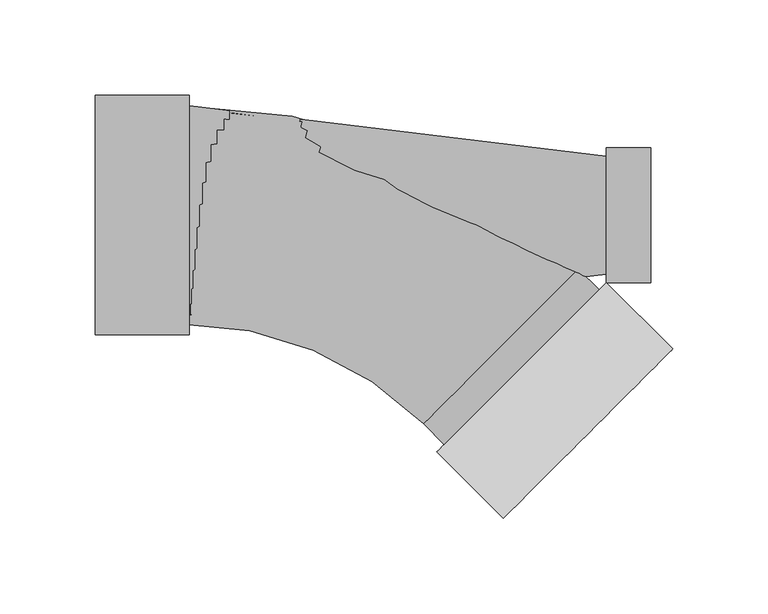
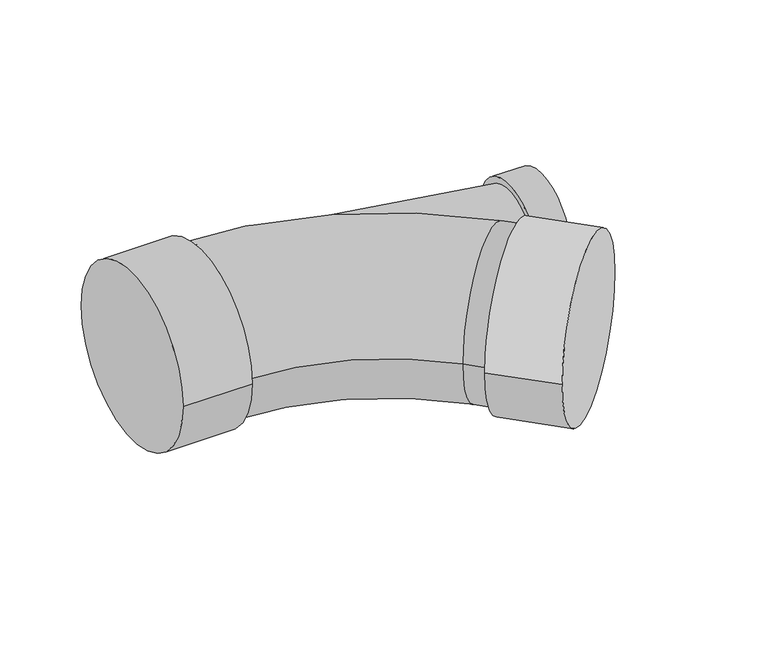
"""IFC4 building model written with IfcOpenShell, lengths in millimetres: pipe fitting geometry, M_Sanitario con te de reducción - PVC - Serie 40 - DWV : Estándar."""

from ifc_helpers import new_model, si_unit, point, frame, origin, place, context, project, spatial, polyline, circle_curve, ellipse_curve, trimmed, source, transform, mapped, element, save
from ifc_brep_helpers import plane_surface, cylinder_surface, revolved_surface, advanced_brep


def pipe_fitting_e120c99a(model_context):
    return source(origin(), model_context, "Body", "AdvancedBrep", [
        advanced_brep(
        [(124.3040007, -35.4191094, 0.0), (124.3040007, 35.4191094, 0.0), (124.3040007, -30.9800625, 0.0), (124.3040007, 30.9800625, 0.0), (147.6323132, -35.4191094, 0.0), (147.6323132, 35.4191094, 0.0), (-94.6584022, 57.3960625, 0.0), (-94.6584022, -57.3960625, 0.0), (-143.8947147, -62.8511094, 0.0), (-143.8947147, 62.8511094, 0.0), (-94.6584022, -62.8511094, 0.0), (-94.6584022, 62.8511094, 0.0)],
        [
            (0, 1, circle_curve(frame((124.3040007, 0.0, 0.0), z_axis=(-1.0, 0.0, 0.0), x_axis=(0.0, 1.0, 0.0)), 35.4191094)),
            (1, 0, circle_curve(frame((124.3040007, 0.0, 0.0), z_axis=(-1.0, 0.0, 0.0), x_axis=(0.0, 1.0, 0.0)), 35.4191094)),
            (2, 3, circle_curve(frame((124.3040007, 0.0, 0.0), z_axis=(1.0, 0.0, 0.0), x_axis=(0.0, -1.0, 0.0)), 30.9800625)),
            (3, 2, circle_curve(frame((124.3040007, 0.0, 0.0), z_axis=(1.0, 0.0, 0.0), x_axis=(0.0, 1.0, 0.0)), 30.9800625)),
            (4, 5, circle_curve(frame((147.6323132, 0.0, 0.0), z_axis=(1.0, 0.0, 0.0), x_axis=(0.0, 1.0, 0.0)), 35.4191094)),
            (5, 4, circle_curve(frame((147.6323132, 0.0, 0.0), z_axis=(1.0, 0.0, 0.0), x_axis=(0.0, 1.0, 0.0)), 35.4191094)),
            (0, 4),
            (5, 1),
            (6, 3),
            (2, 7),
            (7, 6, circle_curve(frame((-94.6584022, 0.0, 0.0), z_axis=(1.0, 0.0, 0.0), x_axis=(0.0, -1.0, 0.0)), 57.3960625)),
            (6, 7, circle_curve(frame((-94.6584022, 0.0, 0.0), z_axis=(1.0, 0.0, 0.0), x_axis=(0.0, 1.0, 0.0)), 57.3960625)),
            (8, 9, circle_curve(frame((-143.8947147, 0.0, 0.0), z_axis=(-1.0, 0.0, 0.0), x_axis=(0.0, 1.0, 0.0)), 62.8511094)),
            (9, 8, circle_curve(frame((-143.8947147, 0.0, 0.0), z_axis=(-1.0, 0.0, 0.0), x_axis=(0.0, 1.0, 0.0)), 62.8511094)),
            (10, 11, circle_curve(frame((-94.6584022, 0.0, 0.0), z_axis=(1.0, 0.0, 0.0), x_axis=(0.0, 1.0, 0.0)), 62.8511094)),
            (11, 10, circle_curve(frame((-94.6584022, 0.0, 0.0), z_axis=(1.0, 0.0, 0.0), x_axis=(0.0, 1.0, 0.0)), 62.8511094)),
            (8, 10),
            (11, 9),
        ],
        [
            plane_surface(frame((124.3040007, 0.0, 0.0), z_axis=(-1.0, 0.0, 0.0), x_axis=(0.0, 0.0, 1.0))),
            plane_surface(frame((147.6323132, 0.0, 0.0), z_axis=(1.0, 0.0, 0.0), x_axis=(0.0, 0.0, 1.0))),
            cylinder_surface(frame((124.3040007, 0.0, 0.0), z_axis=(-1.0, 0.0, 0.0), x_axis=(0.0, 1.0, 0.0)), 35.4191094),
            revolved_surface(polyline([(124.30400070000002, 30.98006250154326, 0.0), (-94.65840220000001, 57.3960625, 0.0)]), (381.0979486, 0.0, 0.0), (-1.0, 0.0, 0.0)),
            plane_surface(frame((-143.8947147, 0.0, 0.0), z_axis=(-1.0, 0.0, 0.0), x_axis=(0.0, 0.0, 1.0))),
            plane_surface(frame((-94.6584022, 0.0, 0.0), z_axis=(1.0, 0.0, 0.0), x_axis=(0.0, 0.0, 1.0))),
            cylinder_surface(frame((-143.8947147, 0.0, 0.0), z_axis=(-1.0, 0.0, 0.0), x_axis=(0.0, 1.0, 0.0)), 62.8511094),
        ],
        [
            (0, [[1, 2], [3, 4]]),
            (1, [[5, 6]]),
            (2, [[-1, 7, -6, 8]]),
            (2, [[-2, -8, -5, -7]]),
            (3, [[9, -3, 10, 11]]),
            (3, [[-9, 12, -10, -4]]),
            (4, [[13, 14]]),
            (5, [[15, 16], [-11, -12]]),
            (6, [[-13, 17, -16, 18]]),
            (6, [[-14, -18, -15, -17]]),
        ],
    ),
        advanced_brep(
        [(159.1193311, -70.2344398, 0.0), (70.2344398, -159.1193311, 0.0), (68.9992366, -68.9992366, 57.3960625), (28.4140916, -109.5843816, 0.0), (39.27641, -120.4467, 0.0), (120.4467, -39.27641, 0.0), (109.5843816, -28.4140916, 0.0), (68.9992366, -68.9992366, -57.3960625), (-97.5796562, -57.3960625, 0.0), (-97.5796562, 57.3960625, 0.0), (124.3040007, -35.4191094, 0.0), (35.4191094, -124.3040007, 0.0)],
        [
            (0, 1, circle_curve(frame((114.6768855, -114.6768855, 0.0), z_axis=(0.7071067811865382, -0.7071067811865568, 0.0), x_axis=(-0.7071067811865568, -0.7071067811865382, 0.0)), 62.8511094)),
            (1, 0, circle_curve(frame((114.6768855, -114.6768855, 0.0), z_axis=(0.7071067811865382, -0.7071067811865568, 0.0), x_axis=(-0.7071067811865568, -0.7071067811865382, 0.0)), 62.8511094)),
            (2, 3, circle_curve(frame((68.9992366, -68.9992366, 0.0), z_axis=(0.7071067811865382, -0.7071067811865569, 0.0), x_axis=(0.7071067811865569, 0.7071067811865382, 0.0)), 57.3960625)),
            (3, 4),
            (4, 5, circle_curve(frame((79.861555, -79.861555, 0.0), z_axis=(-0.7071067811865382, 0.7071067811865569, 0.0), x_axis=(0.7071067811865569, 0.7071067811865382, 0.0)), 57.3960625)),
            (5, 6),
            (6, 2, circle_curve(frame((68.9992366, -68.9992366, 0.0), z_axis=(0.7071067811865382, -0.7071067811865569, 0.0), x_axis=(0.7071067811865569, 0.7071067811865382, 0.0)), 57.3960625)),
            (3, 7, circle_curve(frame((68.9992366, -68.9992366, 0.0), z_axis=(0.7071067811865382, -0.7071067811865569, 0.0), x_axis=(0.7071067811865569, 0.7071067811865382, 0.0)), 57.3960625)),
            (7, 6, circle_curve(frame((68.9992366, -68.9992366, 0.0), z_axis=(0.7071067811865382, -0.7071067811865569, 0.0), x_axis=(0.7071067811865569, 0.7071067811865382, 0.0)), 57.3960625)),
            (5, 4, circle_curve(frame((79.861555, -79.861555, 0.0), z_axis=(-0.7071067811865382, 0.7071067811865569, 0.0), x_axis=(0.7071067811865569, 0.7071067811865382, 0.0)), 57.3960625)),
            (8, 9, circle_curve(frame((-97.5796562, 0.0, 0.0), z_axis=(-1.0, 0.0, 0.0), x_axis=(0.0, 1.0, 0.0)), 57.3960625)),
            (9, 8, circle_curve(frame((-97.5796562, 0.0, 0.0), z_axis=(-1.0, 0.0, 0.0), x_axis=(0.0, 1.0, 0.0)), 57.3960625)),
            (8, 3, circle_curve(frame((-97.5796562, -235.5781295, 0.0), z_axis=(0.0, 0.0, -1.0), x_axis=(0.0, 1.0, 0.0)), 178.182067)),
            (6, 9, circle_curve(frame((-97.5796562, -235.5781295, 0.0), z_axis=(0.0, 0.0, 1.0), x_axis=(0.0, 1.0, 0.0)), 292.974192)),
            (10, 11, circle_curve(frame((79.861555, -79.861555, 0.0), z_axis=(-0.7071067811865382, 0.7071067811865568, 0.0), x_axis=(-0.7071067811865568, -0.7071067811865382, 0.0)), 62.8511094)),
            (11, 10, circle_curve(frame((79.861555, -79.861555, 0.0), z_axis=(-0.7071067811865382, 0.7071067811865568, 0.0), x_axis=(-0.7071067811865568, -0.7071067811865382, 0.0)), 62.8511094)),
            (0, 10),
            (11, 1),
        ],
        [
            plane_surface(frame((114.6768855, -114.6768855, 0.0), z_axis=(0.7071067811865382, -0.7071067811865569, 0.0), x_axis=(0.0, 0.0, 1.0))),
            cylinder_surface(frame((68.9992366, -68.9992366, 0.0), z_axis=(-0.7071067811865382, 0.7071067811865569, 0.0), x_axis=(0.7071067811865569, 0.7071067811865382, 0.0)), 57.3960625),
            plane_surface(frame((-97.5796562, 0.0, 0.0), z_axis=(-1.0, 0.0, 0.0), x_axis=(0.0, 0.0, 1.0))),
            revolved_surface(trimmed(ellipse_curve(frame((-97.5796562, 0.0, 0.0), z_axis=(-1.0, 0.0, 0.0), x_axis=(0.0, 1.0, 0.0)), 57.3960625, 57.3960625), [point((-97.5796562, -57.3960625, 0.0))], [point((-97.5796562, 57.3960625, 0.0))], True, "CARTESIAN"), (-97.5796562, -235.5781295, 0.0), (0.0, 0.0, -1.0)),
            revolved_surface(trimmed(ellipse_curve(frame((-97.5796562, 0.0, 0.0), z_axis=(-1.0, 0.0, 0.0), x_axis=(0.0, 1.0, 0.0)), 57.3960625, 57.3960625), [point((-97.5796562, 57.3960625, 0.0))], [point((-97.5796562, -57.3960625, 0.0))], True, "CARTESIAN"), (-97.5796562, -235.5781295, 0.0), (0.0, 0.0, -1.0)),
            plane_surface(frame((79.861555, -79.861555, 0.0), z_axis=(-0.7071067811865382, 0.7071067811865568, 0.0), x_axis=(0.0, 0.0, 1.0))),
            cylinder_surface(frame((114.6768855, -114.6768855, 0.0), z_axis=(0.7071067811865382, -0.7071067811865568, 0.0), x_axis=(-0.7071067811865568, -0.7071067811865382, 0.0)), 62.8511094),
        ],
        [
            (0, [[1, 2]]),
            (1, [[3, 4, 5, 6, 7]]),
            (1, [[8, 9, -6, 10, -4]]),
            (2, [[11, 12]]),
            (3, [[-11, 13, -3, -7, 14]]),
            (4, [[-12, -14, -9, -8, -13]]),
            (5, [[15, 16], [-5, -10]]),
            (6, [[-1, 17, -16, 18]]),
            (6, [[-2, -18, -15, -17]]),
        ],
    ),
    ])


if __name__ == "__main__":
    model = new_model("IFC4")
    model_context = context("Model", 3, world=origin())
    ifc_project = project(units=[si_unit("LENGTHUNIT", "METRE", prefix="MILLI")], contexts=[model_context])
    site = spatial("IfcSite", under=ifc_project)
    building = spatial("IfcBuilding", under=site)
    placement = place(None, origin())
    pipe_fitting_shape = pipe_fitting_e120c99a(model_context)
    element("IfcPipeFitting", 1, ObjectType="M_Sanitario con te de reducción - PVC - Serie 40 - DWV : Estándar", at=placement, inside=building, context=model_context, shape_type="MappedRepresentation", body=[
        mapped(pipe_fitting_shape, transform((0.0, 0.0, 0.0), x_axis=(1.0, 0.0, 0.0), y_axis=(0.0, 1.0, 0.0), z_axis=(0.0, 0.0, 1.0))),
    ])
    save(model, "model.ifc")
